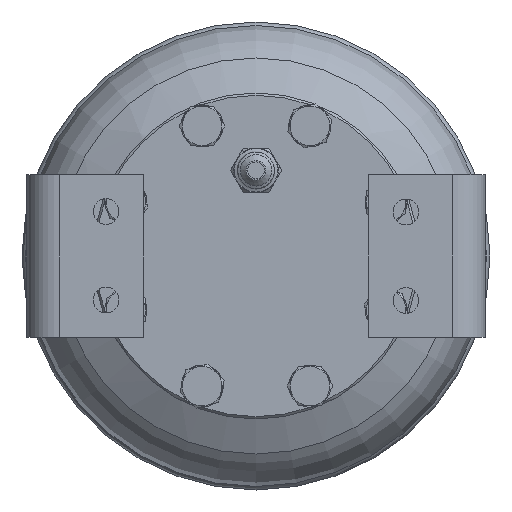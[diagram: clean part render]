
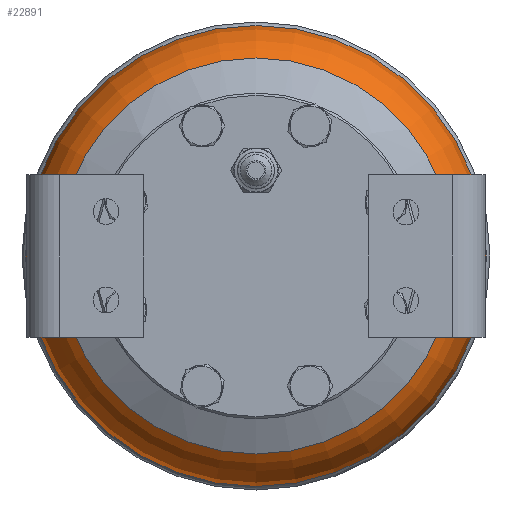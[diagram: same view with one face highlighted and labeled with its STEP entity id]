
A CAD part, front view. The second image highlights one B-rep face of the part: STEP entity #22891.
In plain terms, the highlighted toroidal (fillet/blend) face has major radius 69 mm and minor radius 30 mm.
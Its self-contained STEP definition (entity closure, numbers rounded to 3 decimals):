
#5084=FACE_BOUND('',#6802,.T.);
#5321=TOROIDAL_SURFACE('',#24345,69.,30.);
#5383=FACE_OUTER_BOUND('',#6801,.T.);
#6801=EDGE_LOOP('',(#15251));
#6802=EDGE_LOOP('',(#15252));
#8426=CIRCLE('',#24343,85.047);
#8428=CIRCLE('',#24346,99.);
#9207=VERTEX_POINT('',#32880);
#9209=VERTEX_POINT('',#32885);
#11614=EDGE_CURVE('',#9207,#9207,#8426,.T.);
#11616=EDGE_CURVE('',#9209,#9209,#8428,.T.);
#15251=ORIENTED_EDGE('',*,*,#11614,.F.);
#15252=ORIENTED_EDGE('',*,*,#11616,.T.);
#22891=ADVANCED_FACE('',(#5383,#5084),#5321,.T.);
#24343=AXIS2_PLACEMENT_3D('',#32881,#26653,#26654);
#24345=AXIS2_PLACEMENT_3D('',#32884,#26657,#26658);
#24346=AXIS2_PLACEMENT_3D('',#32886,#26659,#26660);
#26653=DIRECTION('center_axis',(0.,-1.,0.));
#26654=DIRECTION('ref_axis',(1.,0.,0.));
#26657=DIRECTION('center_axis',(0.,-1.,0.));
#26658=DIRECTION('ref_axis',(0.,0.,1.));
#26659=DIRECTION('center_axis',(0.,-1.,0.));
#26660=DIRECTION('ref_axis',(1.,0.,0.));
#32880=CARTESIAN_POINT('',(85.047,-172.983,0.));
#32881=CARTESIAN_POINT('Origin',(0.,-172.983,
0.));
#32884=CARTESIAN_POINT('Origin',(0.,-147.635,
0.));
#32885=CARTESIAN_POINT('',(99.,-147.635,0.));
#32886=CARTESIAN_POINT('Origin',(0.,-147.635,
0.));
